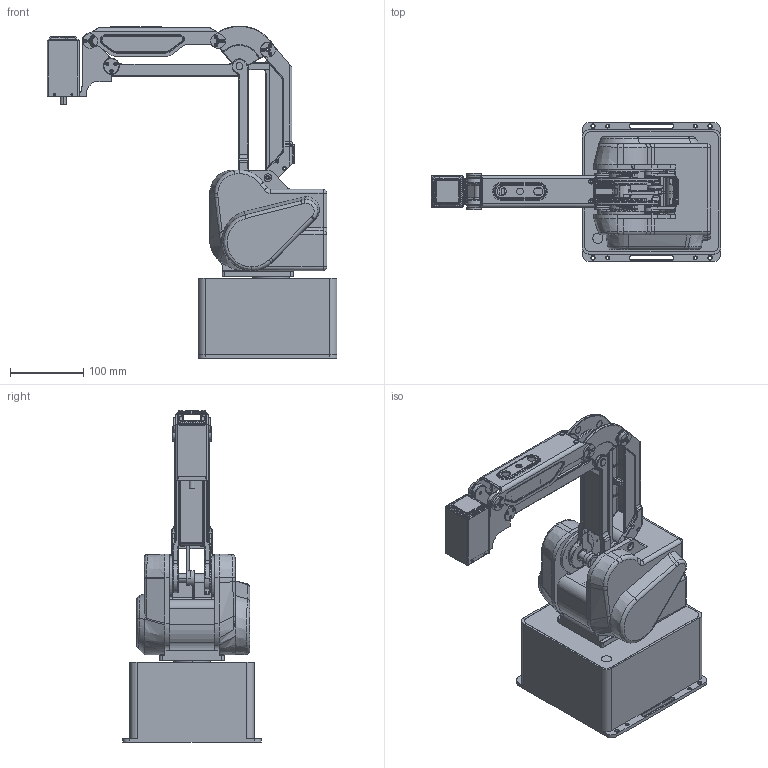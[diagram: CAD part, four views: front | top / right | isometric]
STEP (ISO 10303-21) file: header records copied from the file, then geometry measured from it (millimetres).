
FILE_DESCRIPTION((''),'2;1');
FILE_NAME('MG400_ASM','2024-07-26T16:53:13',('Administrator'),(''),'CREO PARAMETRIC BY PTC INC, 2017260','CREO PARAMETRIC BY PTC INC, 2017260','');
FILE_SCHEMA(('CONFIG_CONTROL_DESIGN'));
Products named in the file (14): 2204132100_1; J2_J3_1; 2204159500_22; 2205006400-20210110001_8; 2205006300202101160001_10; 2205006600--2021010001_9; 2205006700--2021010001_12; 2205006900-20210110001_4; 2205007000-20210110001_5; 2204159600_36; 2205006800-20210110001_17; J4_MOTOR_1; 2206058300-1; MG400_ASM
Assembly tree (13 placements, depth 2):
  MG400_ASM
    2204132100_1
    J2_J3_1
    2204159500_22
    2205006400-20210110001_8
    2205006300202101160001_10
    2205006600--2021010001_9
    2205006700--2021010001_12
    2205006900-20210110001_4
    2205007000-20210110001_5
    2204159600_36
    2205006800-20210110001_17
    J4_MOTOR_1
    2206058300-1
Bounding box: 396.5 x 190 x 454 mm (x, y, z)
Volume: 5708363.9 mm3; surface area: 557564.3 mm2
Topology: 13 solids, 15 shells, 3305 faces, 8712 edges, 5419 vertices
Faces by surface type: cylinder 1241, plane 948, bspline 436, cone 421, torus 194, sphere 30, revolution 26, extrusion 9
Entity records: 121226 total; most frequent: CARTESIAN_POINT 41047, ORIENTED_EDGE 17146, DIRECTION 16259, EDGE_CURVE 8573, AXIS2_PLACEMENT_3D 6178, VERTEX_POINT 5418, VECTOR 3877, LINE 3868
